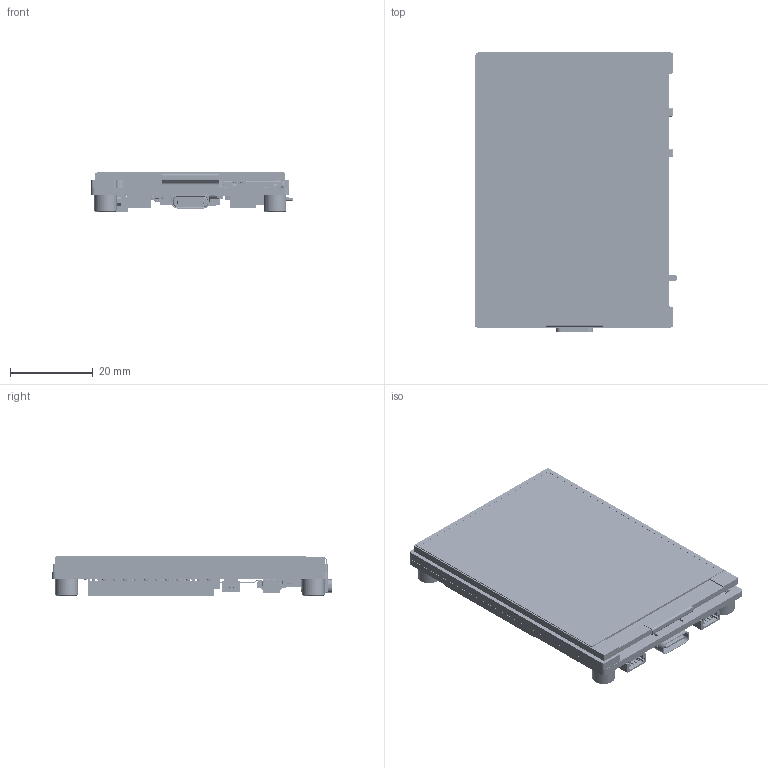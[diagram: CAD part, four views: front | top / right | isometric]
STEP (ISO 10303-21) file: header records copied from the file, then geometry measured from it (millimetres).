
FILE_DESCRIPTION((''),'2;1');
FILE_NAME('ESP32-S3-TOUCH-LCD-2_8B_ASM','2026-06-24T14:21:23',('xiaojisheng'),(''),'CREO PARAMETRIC BY PTC INC, 2021063','CREO PARAMETRIC BY PTC INC, 2021063','');
FILE_SCHEMA(('CONFIG_CONTROL_DESIGN','SHAPE_APPEARANCE_LAYERS_GROUPS'));
Products named in the file (263): BV-LCM28022A-N; BOARD; SOT-23; Q3_ASM; 2_A; 300; _10001; C_0201-1099_AF1_ASM_ASM; C_0201-4408_AF1_ASM_ASM; 3D_MODEL_ASM; C1_ASM; C2_ASM; 2_1_200; _1_1_20001; 3_1_2_A; C_0603-683_AF0_ASM_ASM; C_0603-7177_AF0_ASM_ASM; C_0603_ASM; C3_ASM; _1_10001; 3_1_A; 2_100; C_0402-672_AF0_ASM_ASM; C_0402-4045_AF0_ASM_ASM; C_0402_ASM; C4_ASM; C5_ASM; C6_ASM; C7_ASM; C8_ASM; C9_ASM; C10_ASM; C11_ASM; C12_ASM; C13_ASM; C14_ASM; C15_ASM; C16_ASM; C17_ASM; C18_ASM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
Assembly tree (382 placements, depth 9):
  ESP32-S3-TOUCH-LCD-2_8B_ASM
    BV-LCM28022A-N
    ESP32-S3-TOUCH-LCD-2_8B_PCBA_ASM
      ESP32-S3-T_LCD-2_8B-PCBA241029_ASM
        PCB_ASM
          BOARD
          Q3_ASM
            SOT-23
          C1_ASM
            3D_MODEL_ASM
              C_0201-4408_AF1_ASM_ASM
                C_0201-1099_AF1_ASM_ASM
                  2_A
                  300
                  _10001
          C2_ASM
            3D_MODEL_ASM
              C_0201-4408_AF1_ASM_ASM
                C_0201-1099_AF1_ASM_ASM
                  2_A
                  300
                  _10001
          C3_ASM
            C_0603_ASM
              C_0603-7177_AF0_ASM_ASM
                C_0603-683_AF0_ASM_ASM
                  2_1_200
                  _1_1_20001
                  3_1_2_A
          C4_ASM
            C_0402_ASM
              C_0402-4045_AF0_ASM_ASM
                C_0402-672_AF0_ASM_ASM
                  _1_10001
                  3_1_A
                  2_100
          C5_ASM
            3D_MODEL_ASM
              C_0201-4408_AF1_ASM_ASM
                C_0201-1099_AF1_ASM_ASM
                  2_A
                  300
                  _10001
          C6_ASM
            3D_MODEL_ASM
              C_0201-4408_AF1_ASM_ASM
                C_0201-1099_AF1_ASM_ASM
                  2_A
                  300
                  _10001
          C7_ASM
            C_0402_ASM
              C_0402-4045_AF0_ASM_ASM
                C_0402-672_AF0_ASM_ASM
                  _1_10001
                  3_1_A
                  2_100
          C8_ASM
            C_0402_ASM
              C_0402-4045_AF0_ASM_ASM
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Bounding box: 48.71 x 67.6 x 9.5 mm (x, y, z)
Volume: 16053.7 mm3; surface area: 25285.4 mm2
Topology: 471 solids, 494 shells, 25544 faces, 67088 edges, 43895 vertices
Faces by surface type: plane 18119, extrusion 4217, cylinder 2692, sphere 334, cone 106, bspline 52, torus 24
Entity records: 361145 total; most frequent: CARTESIAN_POINT 78311, ORIENTED_EDGE 46038, DIRECTION 42191, EDGE_CURVE 23038, PRESENTATION_STYLE_ASSIGNMENT 19468, STYLED_ITEM 18588, VECTOR 18505, CURVE_STYLE 18233
